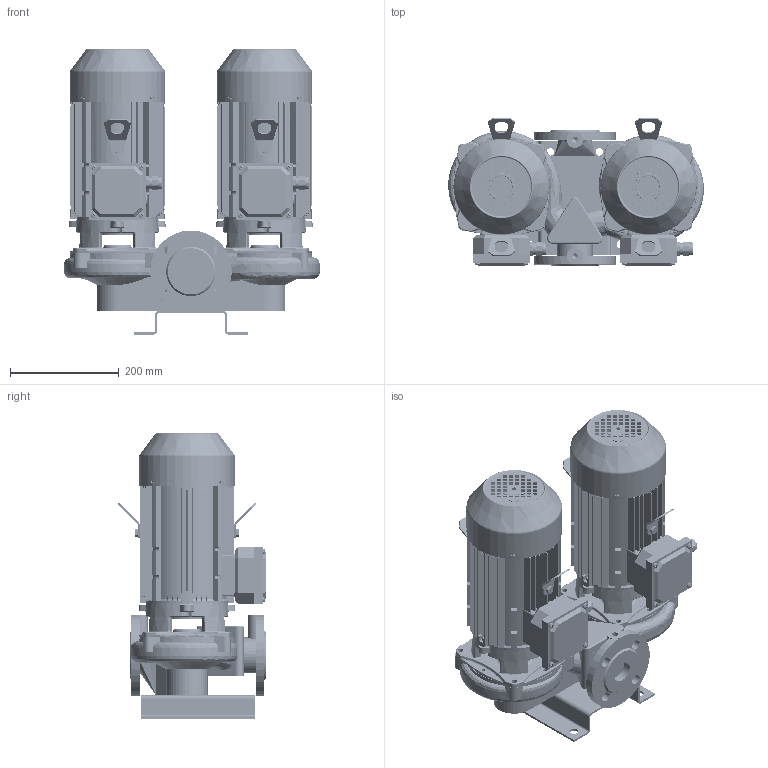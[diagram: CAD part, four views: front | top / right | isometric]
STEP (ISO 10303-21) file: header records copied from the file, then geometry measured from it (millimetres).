
FILE_DESCRIPTION(('STEP AP214'),'1');
FILE_NAME('export.stp','2018-05-30T07:23:31',(' '),(' '),'Spatial InterOp 3D',' ',' ');
FILE_SCHEMA(('AUTOMOTIVE_DESIGN { 1 0 10303 214 1 1 1 1 }'));
Length unit declared in the file: millimetre
Products named in the file (29): W_T40A2150_KP90; V_TLAEAP3233L40A; V_PPT40A; V_JALKA35973; 160035; 160008; V_MKP90-1_N13; 160141; 160137; 160138; 160139; 160140; Koura_Ale_M5; Plug_Blind_M20; Sealing_Plug_M20; DIN_7985-M5X8; DIN_7985-M5X12; 480037; 480036___; 480039; 480038___; 160135; 160134; DIN_EN_24017_-_M8_16-Stainless_S
Assembly tree (54 placements, depth 4):
  W_T40A2150_KP90
    V_TLAEAP3233L40A  x2
    V_PPT40A
    V_JALKA35973
    V_MKP90-1_N13
      160035
        160008
      160141
        160137
        160138
        160139
        160140
        Koura_Ale_M5
        Plug_Blind_M20
        Sealing_Plug_M20
        DIN_7985-M5X8
        DIN_7985-M5X12  x4
      480037
        480036___
      480039
        480038___
      160135
      160134  x2
      DIN_EN_24017_-_M8_16-Stainless_S  x2
    V_MKP90-1_N13
      160035
        160008
      160141
        160137
        160138
        160139
        160140
        Koura_Ale_M5
        Plug_Blind_M20
        Sealing_Plug_M20
        DIN_7985-M5X8
        DIN_7985-M5X12  x4
      480037
        480036___
      480039
        480038___
      160135
      160134  x2
      DIN_EN_24017_-_M8_16-Stainless_S  x2
Bounding box: 469.53 x 272.62 x 523.51 mm (x, y, z)
Volume: 11885143.1 mm3; surface area: 4166278.1 mm2
Topology: 44 solids, 44 shells, 5136 faces, 13597 edges, 8595 vertices
Faces by surface type: plane 2144, cylinder 1445, torus 600, bspline 589, cone 334, sphere 24
Entity records: 107240 total; most frequent: CARTESIAN_POINT 39380, ORIENTED_EDGE 13820, DIRECTION 12528, EDGE_CURVE 6910, AXIS2_PLACEMENT_3D 4766, VERTEX_POINT 4401, LINE 2996, VECTOR 2996
